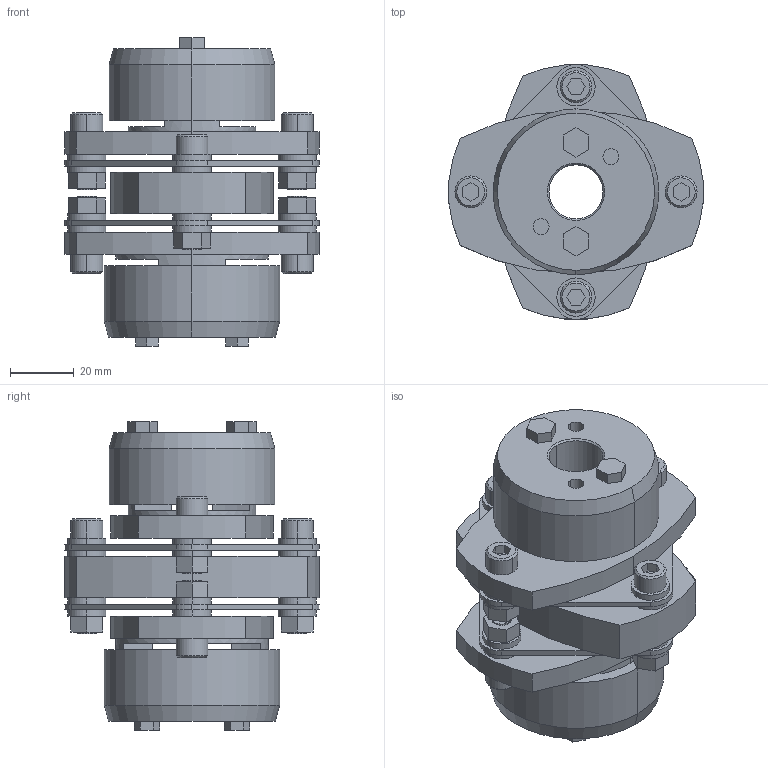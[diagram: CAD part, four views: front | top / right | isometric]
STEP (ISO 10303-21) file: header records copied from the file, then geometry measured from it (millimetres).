
FILE_DESCRIPTION((''),'2;1');
FILE_NAME('LCD-80T7-17×28.stp','2011-09-15T13:17:06',(''),(''),'AutoCAD STEP 2000i','AutoCAD 2000i',', , ');
FILE_SCHEMA(('CONFIG_CONTROL_DESIGN'));
Length unit declared in the file: millimetre
Products named in the file (9): LCD-80T7-17×28; 忣兜1; LC80T7-T028; LC80T7-T024; LC80T7-T022; LC80T7-T019; LC80T7-T017-1; LC80T7-T017; LCD80-ITA
Assembly tree (8 placements, depth 2):
  LCD-80T7-17×28
    忣兜1
    LC80T7-T028
    LC80T7-T024
    LC80T7-T022
    LC80T7-T019
    LC80T7-T017-1
    LC80T7-T017
    LCD80-ITA
Bounding box: 80 x 79.95 x 96.8 mm (x, y, z)
Volume: 178516 mm3; surface area: 56959.7 mm2
Topology: 1 solids, 1 shells, 320 faces, 780 edges, 512 vertices
Faces by surface type: plane 176, cylinder 120, cone 24
Entity records: 9691 total; most frequent: DIRECTION 1718, CARTESIAN_POINT 1621, ORIENTED_EDGE 1560, EDGE_CURVE 780, AXIS2_PLACEMENT_3D 609, VERTEX_POINT 512, VECTOR 500, LINE 500
